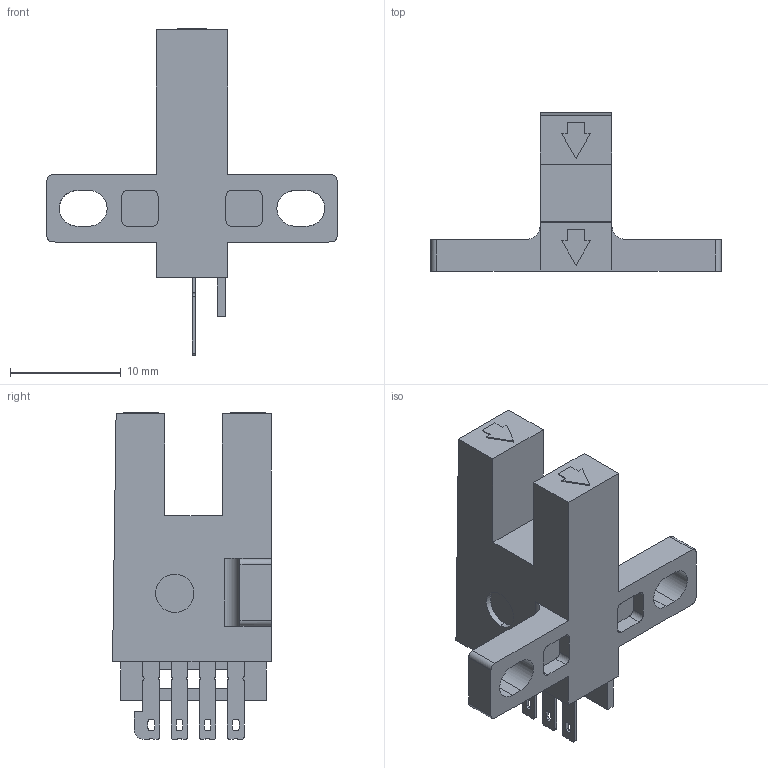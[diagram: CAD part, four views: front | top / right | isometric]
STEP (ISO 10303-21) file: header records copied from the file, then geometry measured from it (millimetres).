
FILE_DESCRIPTION((''),'2;1');
FILE_NAME('FF-U672QJ_ASM','2018-07-23T17:10:10',('Administrator'),(''),'CREO PARAMETRIC BY PTC INC, 2016390','CREO PARAMETRIC BY PTC INC, 2016390','');
FILE_SCHEMA(('CONFIG_CONTROL_DESIGN'));
Length unit declared in the file: millimetre
Products named in the file (5): FF-U672QJ; QIAJIAOGAI; 670000; WUJINQIAJIAO_ASM; FF-U672QJ_ASM
Assembly tree (4 placements, depth 3):
  FF-U672QJ_ASM
    FF-U672QJ
    WUJINQIAJIAO_ASM
      QIAJIAOGAI
      670000
Bounding box: 26.18 x 14.34 x 29.5 mm (x, y, z)
Volume: 1187.6 mm3; surface area: 2655.2 mm2
Topology: 6 solids, 6 shells, 256 faces, 726 edges, 484 vertices
Faces by surface type: plane 200, cylinder 56
Entity records: 8509 total; most frequent: CARTESIAN_POINT 1603, ORIENTED_EDGE 1452, DIRECTION 1348, EDGE_CURVE 726, VECTOR 614, LINE 614, VERTEX_POINT 484, AXIS2_PLACEMENT_3D 367
